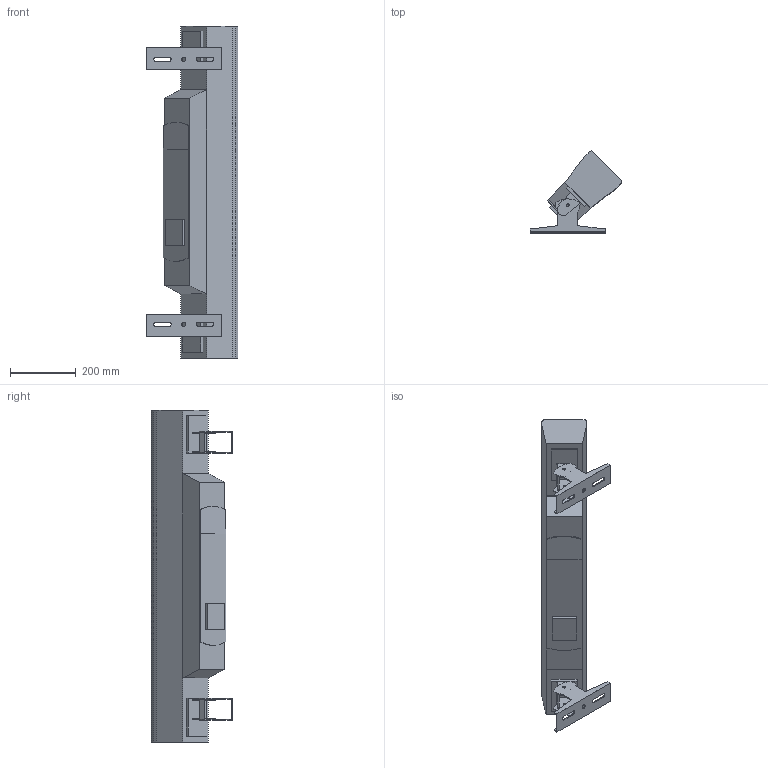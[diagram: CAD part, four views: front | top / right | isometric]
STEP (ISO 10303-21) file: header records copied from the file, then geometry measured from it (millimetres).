
FILE_DESCRIPTION(/* description */ (''),/* implementation_level */ '2;1');
FILE_NAME(/* name */ 'D:/dgooch/Documents/CADENG/PRO/Colorado Solo Batten/45/Colorado Solo Batten_45.step',/* time_stamp */ '2019-03-25T14:12:54-04:00',/* author */ ('dgooch'),/* organization */ (''),/* preprocessor_version */ 'ST-DEVELOPER v17.2',/* originating_system */ 'Autodesk Translation Framework v7.6.0.251',/* authorisation */ '');
FILE_SCHEMA (('AUTOMOTIVE_DESIGN { 1 0 10303 214 3 1 1 }'));
Length unit declared in the file: millimetre
Products named in the file (4): Colorado Solo Batten; Bracket ; Bracket (Mirror); Main
Assembly tree (3 placements, depth 2):
  Colorado Solo Batten
    Bracket 
    Bracket (Mirror)
    Main
Bounding box: 280.41 x 249.2 x 1013.1 mm (x, y, z)
Volume: 21087738.4 mm3; surface area: 818094.3 mm2
Topology: 3 solids, 3 shells, 147 faces, 433 edges, 298 vertices
Faces by surface type: plane 105, cylinder 40, bspline 2
Full cylindrical faces by diameter (mm): 6.8 x4, 8.5 x4, 13 x2
Entity records: 5182 total; most frequent: CARTESIAN_POINT 975, ORIENTED_EDGE 866, DIRECTION 827, EDGE_CURVE 433, LINE 335, VECTOR 335, VERTEX_POINT 298, AXIS2_PLACEMENT_3D 246
